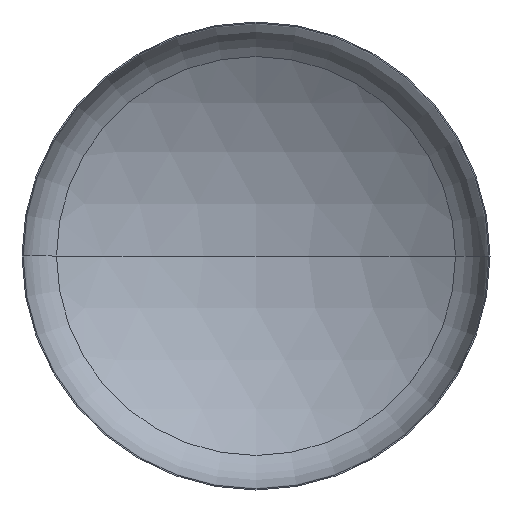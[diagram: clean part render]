
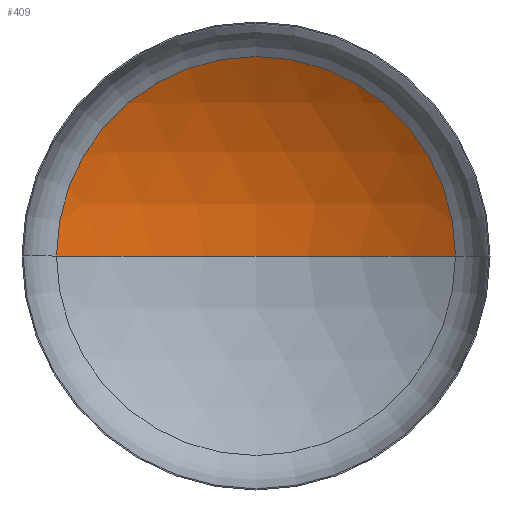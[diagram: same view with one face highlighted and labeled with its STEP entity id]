
A CAD part, front view. The second image highlights one B-rep face of the part: STEP entity #409.
In plain terms, the highlighted spherical face has radius 1360 mm.
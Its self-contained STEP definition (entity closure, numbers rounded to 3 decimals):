
#11 = VERTEX_POINT ( 'NONE', #239 ) ;
#48 = AXIS2_PLACEMENT_3D ( 'NONE', #164, #178, #177 ) ;
#56 = AXIS2_PLACEMENT_3D ( 'NONE', #310, #297, #299 ) ;
#59 = AXIS2_PLACEMENT_3D ( 'NONE', #335, #397, #318 ) ;
#121 = CARTESIAN_POINT ( 'NONE',  ( 0., -910.916, 0. ) ) ;
#141 = DIRECTION ( 'NONE',  ( 0., 0., -1. ) ) ;
#148 = DIRECTION ( 'NONE',  ( -1., 0., 0. ) ) ;
#164 = CARTESIAN_POINT ( 'NONE',  ( 0., -910.916, 0. ) ) ;
#177 = DIRECTION ( 'NONE',  ( 1., 0., 0. ) ) ;
#178 = DIRECTION ( 'NONE',  ( 0., 0., 1. ) ) ;
#202 = CIRCLE ( 'NONE', #59, 724.509 ) ;
#215 = CARTESIAN_POINT ( 'NONE',  ( 0., 449.084, 0. ) ) ;
#239 = CARTESIAN_POINT ( 'NONE',  ( 724.509, 240.035, 0. ) ) ;
#275 = ORIENTED_EDGE ( 'NONE', *, *, #311, .T. ) ;
#284 = EDGE_LOOP ( 'NONE', ( #295, #406, #275 ) ) ;
#294 = CARTESIAN_POINT ( 'NONE',  ( -724.509, 240.035, 0. ) ) ;
#295 = ORIENTED_EDGE ( 'NONE', *, *, #331, .F. ) ;
#297 = DIRECTION ( 'NONE',  ( 0., 0., -1. ) ) ;
#299 = DIRECTION ( 'NONE',  ( -1., 0., 0. ) ) ;
#303 = FACE_OUTER_BOUND ( 'NONE', #284, .T. ) ;
#304 = VERTEX_POINT ( 'NONE', #215 ) ;
#309 = SPHERICAL_SURFACE ( 'NONE', #362, 1360. ) ;
#310 = CARTESIAN_POINT ( 'NONE',  ( 0., -910.916, 0. ) ) ;
#311 = EDGE_CURVE ( 'NONE', #11, #341, #202, .T. ) ;
#318 = DIRECTION ( 'NONE',  ( 1., 0., 0. ) ) ;
#328 = EDGE_CURVE ( 'NONE', #304, #11, #393, .T. ) ;
#330 = CIRCLE ( 'NONE', #48, 1360. ) ;
#331 = EDGE_CURVE ( 'NONE', #304, #341, #330, .T. ) ;
#335 = CARTESIAN_POINT ( 'NONE',  ( 0., 240.035, 0. ) ) ;
#341 = VERTEX_POINT ( 'NONE', #294 ) ;
#362 = AXIS2_PLACEMENT_3D ( 'NONE', #121, #141, #148 ) ;
#393 = CIRCLE ( 'NONE', #56, 1360. ) ;
#397 = DIRECTION ( 'NONE',  ( 0., -1., 0. ) ) ;
#406 = ORIENTED_EDGE ( 'NONE', *, *, #328, .T. ) ;
#409 = ADVANCED_FACE ( 'NONE', ( #303 ), #309, .F. ) ;
